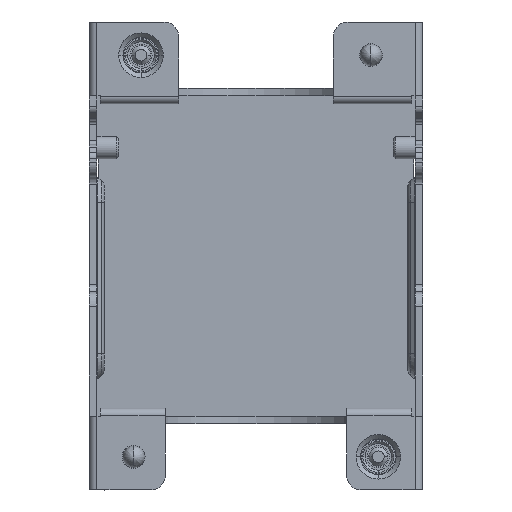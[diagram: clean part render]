
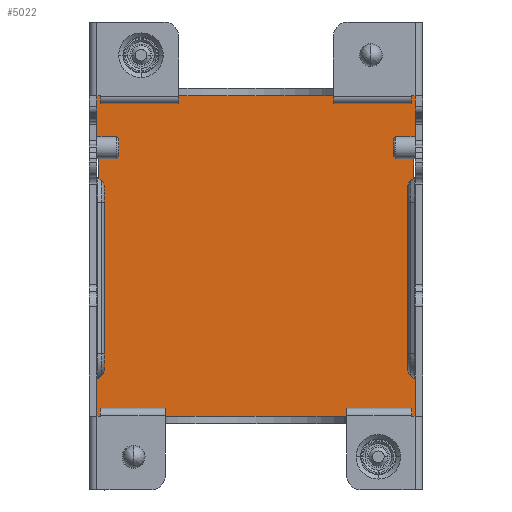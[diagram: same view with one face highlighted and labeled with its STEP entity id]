
A CAD part, front view. The second image highlights one B-rep face of the part: STEP entity #5022.
In plain terms, the highlighted planar face has unit normal (0, -1, 0).
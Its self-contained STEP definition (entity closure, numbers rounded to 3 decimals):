
#257 = LINE ( 'NONE', #50336, #49239 ) ;
#317 = VERTEX_POINT ( 'NONE', #32047 ) ;
#367 = VECTOR ( 'NONE', #43675, 1000. ) ;
#1171 = PLANE ( 'NONE',  #55713 ) ;
#1826 = EDGE_CURVE ( 'NONE', #4288, #41985, #20974, .T. ) ;
#1985 = CARTESIAN_POINT ( 'NONE',  ( -20.5, 0.1, 49. ) ) ;
#1997 = ORIENTED_EDGE ( 'NONE', *, *, #10019, .F. ) ;
#2497 = VECTOR ( 'NONE', #27498, 1000. ) ;
#3345 = CARTESIAN_POINT ( 'NONE',  ( -21.6, 0.1, 49. ) ) ;
#3784 = VERTEX_POINT ( 'NONE', #1985 ) ;
#4288 = VERTEX_POINT ( 'NONE', #57075 ) ;
#5022 = ADVANCED_FACE ( 'NONE', ( #50671 ), #1171, .F. ) ;
#5330 = CARTESIAN_POINT ( 'NONE',  ( 20.5, 0.1, 5.5 ) ) ;
#6023 = CARTESIAN_POINT ( 'NONE',  ( -21.4, 0.1, 42.23 ) ) ;
#6466 = DIRECTION ( 'NONE',  ( -1., 0., 0. ) ) ;
#6763 = CARTESIAN_POINT ( 'NONE',  ( -21.6, 0.1, 5.5 ) ) ;
#6847 = ORIENTED_EDGE ( 'NONE', *, *, #7850, .T. ) ;
#7083 = CARTESIAN_POINT ( 'NONE',  ( 20.5, 0.1, 5.5 ) ) ;
#7850 = EDGE_CURVE ( 'NONE', #29805, #41985, #47915, .T. ) ;
#7858 = CARTESIAN_POINT ( 'NONE',  ( 21.6, 0.1, 37.23 ) ) ;
#7945 = VECTOR ( 'NONE', #30733, 1000. ) ;
#8117 = CARTESIAN_POINT ( 'NONE',  ( -21.4, 0.1, 42.23 ) ) ;
#8984 = VECTOR ( 'NONE', #20728, 1000. ) ;
#9490 = DIRECTION ( 'NONE',  ( 0., 0., 1. ) ) ;
#10019 = EDGE_CURVE ( 'NONE', #29805, #11418, #29914, .T. ) ;
#10317 = EDGE_CURVE ( 'NONE', #22170, #52549, #42048, .T. ) ;
#11418 = VERTEX_POINT ( 'NONE', #41881 ) ;
#12006 = EDGE_CURVE ( 'NONE', #22170, #4288, #48583, .T. ) ;
#12157 = EDGE_CURVE ( 'NONE', #3784, #52613, #54835, .T. ) ;
#12798 = CARTESIAN_POINT ( 'NONE',  ( 21.4, 0.1, 37.23 ) ) ;
#13530 = ORIENTED_EDGE ( 'NONE', *, *, #31953, .F. ) ;
#13935 = CARTESIAN_POINT ( 'NONE',  ( -21.4, 0.1, 42.23 ) ) ;
#14631 = CARTESIAN_POINT ( 'NONE',  ( 21.4, 0.1, 37.23 ) ) ;
#14666 = DIRECTION ( 'NONE',  ( -1., 0., 0. ) ) ;
#15109 = CARTESIAN_POINT ( 'NONE',  ( -20.5, 0.1, 49. ) ) ;
#15420 = VERTEX_POINT ( 'NONE', #13935 ) ;
#15706 = LINE ( 'NONE', #15109, #25322 ) ;
#15794 = ORIENTED_EDGE ( 'NONE', *, *, #10317, .T. ) ;
#16059 = VECTOR ( 'NONE', #39150, 1000. ) ;
#16335 = CARTESIAN_POINT ( 'NONE',  ( 21.6, 0.1, 5.5 ) ) ;
#16470 = DIRECTION ( 'NONE',  ( 0., 0., -1. ) ) ;
#16545 = CARTESIAN_POINT ( 'NONE',  ( -21.4, 0.1, 37.23 ) ) ;
#17720 = VECTOR ( 'NONE', #46884, 1000. ) ;
#18767 = DIRECTION ( 'NONE',  ( 1., 0., 0. ) ) ;
#18949 = DIRECTION ( 'NONE',  ( 1., 0., 0. ) ) ;
#19460 = CARTESIAN_POINT ( 'NONE',  ( 21.6, 0.1, 42.23 ) ) ;
#20131 = CARTESIAN_POINT ( 'NONE',  ( 21.6, 0.1, 49. ) ) ;
#20728 = DIRECTION ( 'NONE',  ( 0., 0., -1. ) ) ;
#20974 = LINE ( 'NONE', #7858, #16059 ) ;
#21417 = LINE ( 'NONE', #30674, #53262 ) ;
#22170 = VERTEX_POINT ( 'NONE', #52828 ) ;
#22919 = CARTESIAN_POINT ( 'NONE',  ( -20.5, 0.1, 49. ) ) ;
#23860 = CARTESIAN_POINT ( 'NONE',  ( 21.4, 0.1, 42.23 ) ) ;
#24657 = LINE ( 'NONE', #6763, #28217 ) ;
#24900 = VECTOR ( 'NONE', #18949, 1000. ) ;
#25271 = DIRECTION ( 'NONE',  ( 1., 0., 0. ) ) ;
#25291 = VECTOR ( 'NONE', #16470, 1000. ) ;
#25322 = VECTOR ( 'NONE', #6466, 1000. ) ;
#25553 = CARTESIAN_POINT ( 'NONE',  ( -21.6, 0.1, 42.23 ) ) ;
#26440 = EDGE_CURVE ( 'NONE', #52549, #56307, #31518, .T. ) ;
#26688 = VERTEX_POINT ( 'NONE', #57412 ) ;
#27089 = ORIENTED_EDGE ( 'NONE', *, *, #45193, .F. ) ;
#27498 = DIRECTION ( 'NONE',  ( 0., 0., 1. ) ) ;
#28217 = VECTOR ( 'NONE', #38360, 1000. ) ;
#28694 = LINE ( 'NONE', #6023, #35940 ) ;
#29323 = CARTESIAN_POINT ( 'NONE',  ( 20.5, 0.1, 5.5 ) ) ;
#29805 = VERTEX_POINT ( 'NONE', #5330 ) ;
#29914 = LINE ( 'NONE', #29323, #17720 ) ;
#29953 = ORIENTED_EDGE ( 'NONE', *, *, #44328, .T. ) ;
#30674 = CARTESIAN_POINT ( 'NONE',  ( 21.6, 0.1, 49. ) ) ;
#30733 = DIRECTION ( 'NONE',  ( 0., 0., 1. ) ) ;
#31518 = LINE ( 'NONE', #36862, #24900 ) ;
#31953 = EDGE_CURVE ( 'NONE', #39740, #51002, #40829, .T. ) ;
#32047 = CARTESIAN_POINT ( 'NONE',  ( -21.6, 0.1, 37.23 ) ) ;
#32451 = ORIENTED_EDGE ( 'NONE', *, *, #38290, .T. ) ;
#32640 = ORIENTED_EDGE ( 'NONE', *, *, #44320, .T. ) ;
#32746 = DIRECTION ( 'NONE',  ( 1., 0., 0. ) ) ;
#33984 = ORIENTED_EDGE ( 'NONE', *, *, #45435, .F. ) ;
#34170 = LINE ( 'NONE', #20131, #8984 ) ;
#35480 = DIRECTION ( 'NONE',  ( 1., 0., 0. ) ) ;
#35940 = VECTOR ( 'NONE', #14666, 1000. ) ;
#36862 = CARTESIAN_POINT ( 'NONE',  ( 21.4, 0.1, 42.23 ) ) ;
#36962 = CARTESIAN_POINT ( 'NONE',  ( 0., 0.1, 0. ) ) ;
#38290 = EDGE_CURVE ( 'NONE', #26688, #317, #57409, .T. ) ;
#38360 = DIRECTION ( 'NONE',  ( 1., 0., 0. ) ) ;
#39150 = DIRECTION ( 'NONE',  ( 0., 0., -1. ) ) ;
#39596 = DIRECTION ( 'NONE',  ( -1., 0., 0. ) ) ;
#39740 = VERTEX_POINT ( 'NONE', #25553 ) ;
#40368 = VERTEX_POINT ( 'NONE', #42614 ) ;
#40829 = LINE ( 'NONE', #49490, #7945 ) ;
#41543 = ORIENTED_EDGE ( 'NONE', *, *, #12157, .F. ) ;
#41747 = EDGE_CURVE ( 'NONE', #15420, #26688, #52559, .T. ) ;
#41766 = ORIENTED_EDGE ( 'NONE', *, *, #12006, .F. ) ;
#41795 = ORIENTED_EDGE ( 'NONE', *, *, #26440, .T. ) ;
#41881 = CARTESIAN_POINT ( 'NONE',  ( -20.5, 0.1, 5.5 ) ) ;
#41985 = VERTEX_POINT ( 'NONE', #16335 ) ;
#42048 = LINE ( 'NONE', #14631, #2497 ) ;
#42403 = EDGE_CURVE ( 'NONE', #40368, #56307, #34170, .T. ) ;
#42479 = VECTOR ( 'NONE', #25271, 1000. ) ;
#42614 = CARTESIAN_POINT ( 'NONE',  ( 21.6, 0.1, 49. ) ) ;
#43675 = DIRECTION ( 'NONE',  ( -1., 0., 0. ) ) ;
#44214 = ORIENTED_EDGE ( 'NONE', *, *, #1826, .F. ) ;
#44320 = EDGE_CURVE ( 'NONE', #50876, #11418, #24657, .T. ) ;
#44328 = EDGE_CURVE ( 'NONE', #3784, #51002, #15706, .T. ) ;
#45193 = EDGE_CURVE ( 'NONE', #15420, #39740, #28694, .T. ) ;
#45435 = EDGE_CURVE ( 'NONE', #50876, #317, #257, .T. ) ;
#46018 = ORIENTED_EDGE ( 'NONE', *, *, #58675, .T. ) ;
#46884 = DIRECTION ( 'NONE',  ( -1., 0., 0. ) ) ;
#47915 = LINE ( 'NONE', #7083, #42479 ) ;
#48583 = LINE ( 'NONE', #12798, #49260 ) ;
#49239 = VECTOR ( 'NONE', #9490, 1000. ) ;
#49260 = VECTOR ( 'NONE', #35480, 1000. ) ;
#49470 = EDGE_LOOP ( 'NONE', ( #53720, #32451, #33984, #32640, #1997, #6847, #44214, #41766, #15794, #41795, #51682, #46018, #41543, #29953, #13530, #27089 ) ) ;
#49490 = CARTESIAN_POINT ( 'NONE',  ( -21.6, 0.1, 42.23 ) ) ;
#50336 = CARTESIAN_POINT ( 'NONE',  ( -21.6, 0.1, 5.5 ) ) ;
#50671 = FACE_OUTER_BOUND ( 'NONE', #49470, .T. ) ;
#50876 = VERTEX_POINT ( 'NONE', #51950 ) ;
#51002 = VERTEX_POINT ( 'NONE', #3345 ) ;
#51682 = ORIENTED_EDGE ( 'NONE', *, *, #42403, .F. ) ;
#51888 = CARTESIAN_POINT ( 'NONE',  ( 20.5, 0.1, 49. ) ) ;
#51950 = CARTESIAN_POINT ( 'NONE',  ( -21.6, 0.1, 5.5 ) ) ;
#52121 = VECTOR ( 'NONE', #32746, 1000. ) ;
#52549 = VERTEX_POINT ( 'NONE', #23860 ) ;
#52559 = LINE ( 'NONE', #8117, #25291 ) ;
#52613 = VERTEX_POINT ( 'NONE', #51888 ) ;
#52828 = CARTESIAN_POINT ( 'NONE',  ( 21.4, 0.1, 37.23 ) ) ;
#53262 = VECTOR ( 'NONE', #39596, 1000. ) ;
#53720 = ORIENTED_EDGE ( 'NONE', *, *, #41747, .T. ) ;
#54835 = LINE ( 'NONE', #22919, #52121 ) ;
#55168 = DIRECTION ( 'NONE',  ( 0., 1., 0. ) ) ;
#55713 = AXIS2_PLACEMENT_3D ( 'NONE', #36962, #55168, #18767 ) ;
#56307 = VERTEX_POINT ( 'NONE', #19460 ) ;
#57075 = CARTESIAN_POINT ( 'NONE',  ( 21.6, 0.1, 37.23 ) ) ;
#57409 = LINE ( 'NONE', #16545, #367 ) ;
#57412 = CARTESIAN_POINT ( 'NONE',  ( -21.4, 0.1, 37.23 ) ) ;
#58675 = EDGE_CURVE ( 'NONE', #40368, #52613, #21417, .T. ) ;
